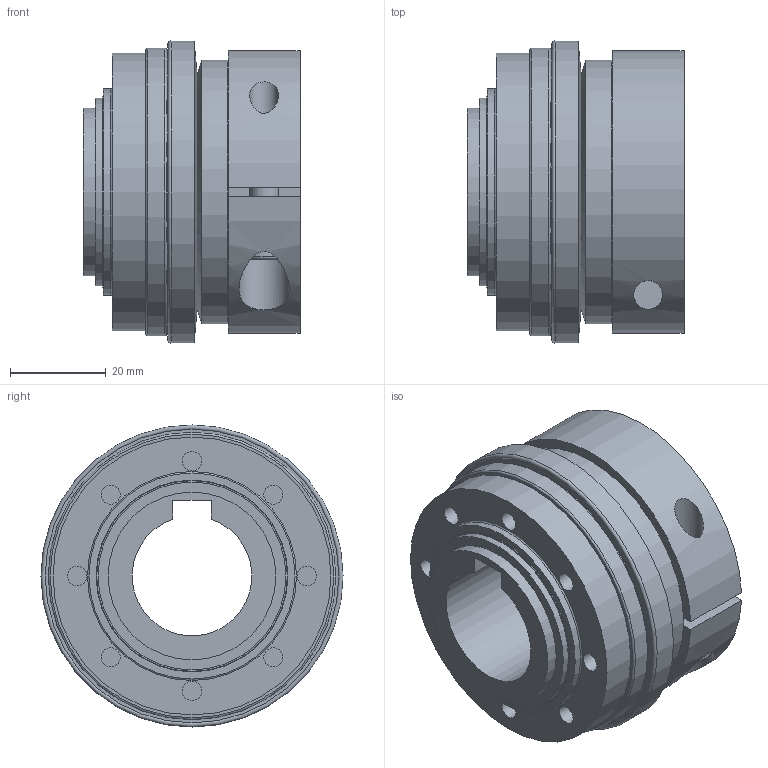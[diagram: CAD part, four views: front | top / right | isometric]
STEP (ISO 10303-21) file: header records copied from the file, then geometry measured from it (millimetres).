
FILE_DESCRIPTION(/* description */ ('STEP AP214'),/* implementation_level */ '2;1');
FILE_NAME(/* name */ 'C:\Diequa Files\DieQua Coupling\TA\STP\TA.30.WD.#.#.stp',/* time_stamp */ '2019-04-26T13:12:52-05:00',/* author */ ('DiequaCAD'),/* organization */ (''),/* preprocessor_version */ 'ST-DEVELOPER v18',/* originating_system */ 'Autodesk Inventor 2020',/* authorisation */ ' ');
FILE_SCHEMA (('AUTOMOTIVE_DESIGN { 1 0 10303 214 3 1 1 }'));
Length unit declared in the file: millimetre
Products named in the file (1): SLN_30_45_W_25_PFN_22_5_10_35_10
Bounding box: 45.3 x 63.07 x 63.07 mm (x, y, z)
Volume: 88127.6 mm3; surface area: 22963.6 mm2
Topology: 1 solids, 1 shells, 73 faces, 188 edges, 140 vertices
Faces by surface type: plane 39, cylinder 23, torus 7, cone 4
Full cylindrical faces by diameter (mm): 4 x8, 6 x2, 6.5 x1, 10 x1, 10.5 x1, 35 x1, 38.858 x1, 39.2 x1, 43 x1, 55 x1, 58 x1, 60 x1, 63 x1
Entity records: 2479 total; most frequent: CARTESIAN_POINT 478, DIRECTION 451, ORIENTED_EDGE 376, AXIS2_PLACEMENT_3D 193, EDGE_CURVE 188, VERTEX_POINT 140, CIRCLE 119, EDGE_LOOP 100
